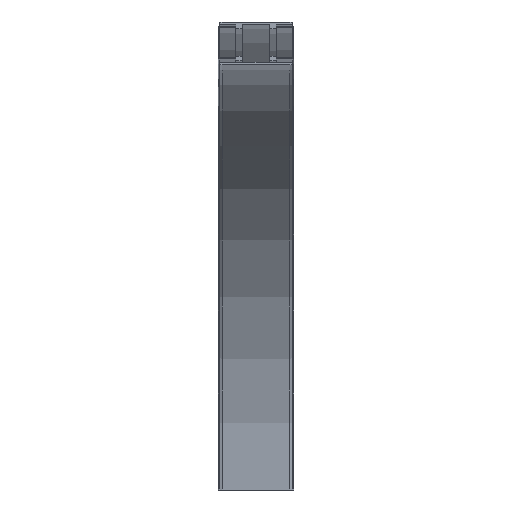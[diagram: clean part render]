
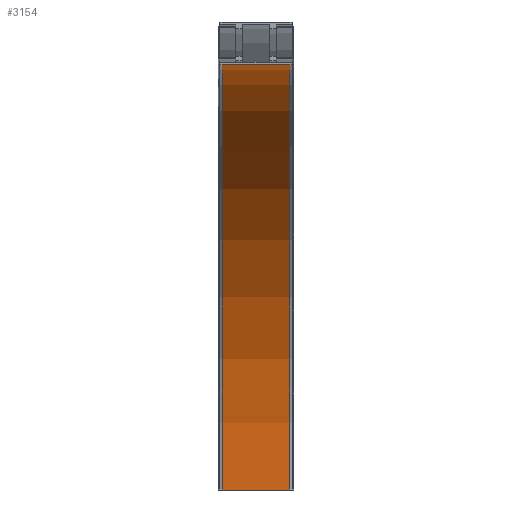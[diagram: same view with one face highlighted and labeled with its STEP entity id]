
A CAD part, front view. The second image highlights one B-rep face of the part: STEP entity #3154.
In plain terms, the highlighted cylindrical face has radius 817.5 mm (diameter 1635 mm), a partial arc.
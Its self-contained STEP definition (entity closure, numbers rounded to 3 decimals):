
#3096=CARTESIAN_POINT('',(104.,-891.5,817.5));
#3097=VERTEX_POINT('',#3096);
#3104=CARTESIAN_POINT('',(104.,-74.,0.0));
#3105=VERTEX_POINT('',#3104);
#3106=CARTESIAN_POINT('',(104.,-891.5,0.0));
#3107=DIRECTION('',(1.0,0.0,0.0));
#3108=DIRECTION('',(0.0,1.0,0.0));
#3109=AXIS2_PLACEMENT_3D('',#3106,#3107,#3108);
#3110=CIRCLE('',#3109,817.5);
#3111=EDGE_CURVE('',#3105,#3097,#3110,.T.);
#3123=CARTESIAN_POINT('',(39.,-891.5,0.0));
#3124=DIRECTION('',(1.0,0.0,0.0));
#3125=DIRECTION('',(0.0,1.0,0.0));
#3126=AXIS2_PLACEMENT_3D('',#3123,#3124,#3125);
#3127=CYLINDRICAL_SURFACE('',#3126,817.5);
#3128=CARTESIAN_POINT('',(-26.,-891.5,817.5));
#3129=VERTEX_POINT('',#3128);
#3130=CARTESIAN_POINT('',(104.0,-891.5,817.5));
#3131=DIRECTION('',(-1.0,0.0,0.0));
#3132=VECTOR('',#3131,130.);
#3133=LINE('',#3130,#3132);
#3134=EDGE_CURVE('',#3097,#3129,#3133,.T.);
#3135=ORIENTED_EDGE('',*,*,#3134,.T.);
#3136=CARTESIAN_POINT('',(-26.,-74.,0.0));
#3137=VERTEX_POINT('',#3136);
#3138=CARTESIAN_POINT('',(-26.,-891.5,0.0));
#3139=DIRECTION('',(1.0,0.0,0.0));
#3140=DIRECTION('',(0.0,1.0,0.0));
#3141=AXIS2_PLACEMENT_3D('',#3138,#3139,#3140);
#3142=CIRCLE('',#3141,817.5);
#3143=EDGE_CURVE('',#3137,#3129,#3142,.T.);
#3144=ORIENTED_EDGE('',*,*,#3143,.F.);
#3145=CARTESIAN_POINT('',(-26.,-74.,0.0));
#3146=DIRECTION('',(1.0,0.0,0.0));
#3147=VECTOR('',#3146,130.);
#3148=LINE('',#3145,#3147);
#3149=EDGE_CURVE('',#3137,#3105,#3148,.T.);
#3150=ORIENTED_EDGE('',*,*,#3149,.T.);
#3151=ORIENTED_EDGE('',*,*,#3111,.T.);
#3152=EDGE_LOOP('',(#3135,#3144,#3150,#3151));
#3153=FACE_OUTER_BOUND('',#3152,.T.);
#3154=ADVANCED_FACE('',(#3153),#3127,.F.);
